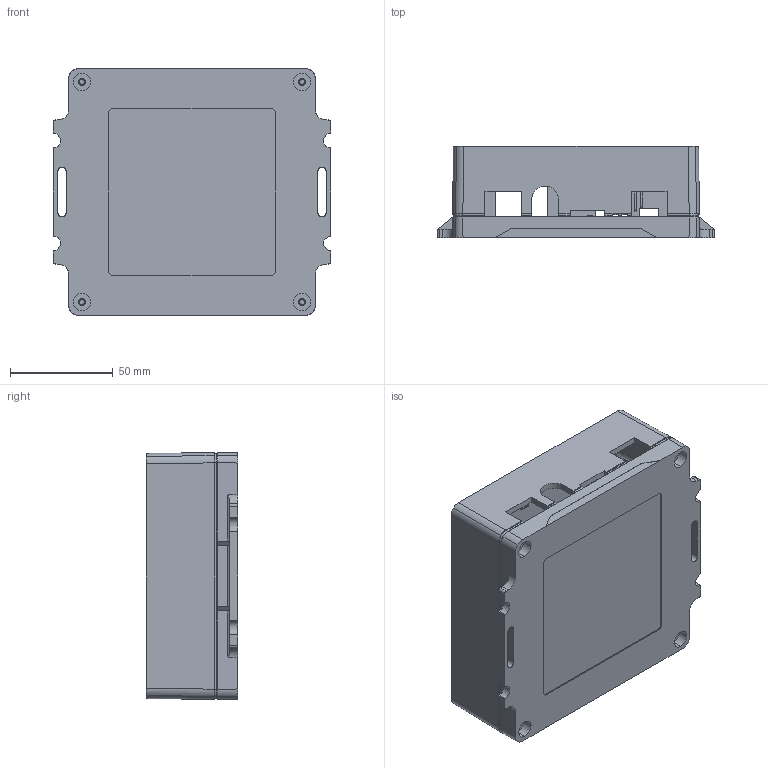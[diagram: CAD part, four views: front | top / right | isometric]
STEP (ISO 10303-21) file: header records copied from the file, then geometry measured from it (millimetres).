
FILE_DESCRIPTION (( 'STEP AP203' ), '1' );
FILE_NAME ('510-0009RevC.STEP', '2021-09-14T00:10:14', ( '' ), ( '' ), 'SwSTEP 2.0', 'SolidWorks 2020', '' );
FILE_SCHEMA (( 'CONFIG_CONTROL_DESIGN' ));
Length unit declared in the file: millimetre
Products named in the file (3): 510-0009RevC; 510-0009RevC-Lid; 510-0009RevC-Box
Assembly tree (2 placements, depth 2):
  510-0009RevC
    510-0009RevC-Lid
    510-0009RevC-Box
Bounding box: 134.83 x 44.5 x 120 mm (x, y, z)
Volume: 144098.6 mm3; surface area: 107168 mm2
Topology: 2 solids, 2 shells, 800 faces, 2127 edges, 1379 vertices
Faces by surface type: plane 387, cylinder 274, cone 106, torus 25, bspline 8
Entity records: 25871 total; most frequent: CARTESIAN_POINT 5875, ORIENTED_EDGE 4254, DIRECTION 4000, EDGE_CURVE 2127, VERTEX_POINT 1379, AXIS2_PLACEMENT_3D 1359, LINE 1282, VECTOR 1282
